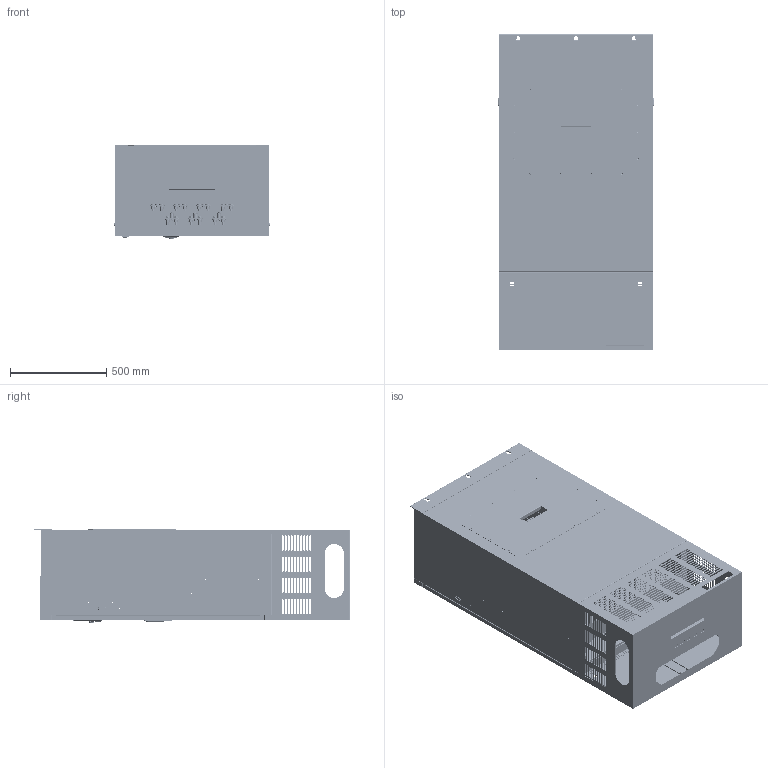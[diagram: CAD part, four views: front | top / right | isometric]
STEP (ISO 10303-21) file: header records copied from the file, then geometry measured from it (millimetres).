
FILE_DESCRIPTION((''),'2;1');
FILE_NAME('00-KC500X-350-450KW230721_ASM_1_ASM','2024-08-16T',('Administrator'),(''),'PRO/ENGINEER BY PARAMETRIC TECHNOLOGY CORPORATION, 2010280','PRO/ENGINEER BY PARAMETRIC TECHNOLOGY CORPORATION, 2010280','');
FILE_SCHEMA(('AUTOMOTIVE_DESIGN { 1 0 10303 214 1 1 1 1 }'));
Products named in the file (147): KC500X-450-01-01-01_6; NZ-M8__1; S-M5-ZC_1; KC500X-450-01-01-01_ASM_3_ASM; KC500X-450-01-01-02_1; KC500X-450-01-01-02_ASM_4_ASM; KC500X-450-01-01-03_3; KC500X-450-01-01-03_ASM_5_ASM; KC500X-450-01-01-04_1; NZ-M6-ZC__2; KC500X-450-01-01-04_ASM_3_ASM; KC500X-450-01-01-05_1; NZ-M4__1; NZ-M4_2; BSO-M5-30-ZC_1; BSO-M3-8_1; KC500X-450-01-01-05_ASM_4_ASM; KC500X-450-01-01-09_1; NZ-M6_3; KC500X-450-01-01-09_ASM_4_ASM; KC500X-450-01-01-10_1; KC500X-450-01-01-10_ASM_3_ASM; KC500X-450-01-01-11_1; KC500X-450-01-01-11_ASM_3_ASM; KC500X-450-01-01-12_1; KC500X-450-01-01-12_ASM_4_ASM; KC500X-450-01-01-13_1; S-M5_1; KC500X-450-01-01-13_ASM_3_ASM; KC500X-450-01-01-14_3; KC500X-450-01-01-15_3; KC500X-450-01-01_ASM_9_ASM; KC500X-450-01-02-02_2; KC500X-450-01-02_ASM_4_ASM; KC500X-450-01-03_1; S-M4-ZC_1; KC500X-450-01-03_ASM_3_ASM; KC500X-450-01-05_1; S-M6-ZC_72__1; KC500X-450-01-05_ASM_4_ASM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
Assembly tree (353 placements, depth 7):
  00-KC500X-350-450KW230721_ASM_1_ASM
    KC500X-450-01_ASM_8_ASM
      KC500X-450-01-01_ASM_9_ASM
        KC500X-450-01-01-01_ASM_3_ASM
          KC500X-450-01-01-01_6
          NZ-M8__1  x5
          S-M5-ZC_1  x14
        KC500X-450-01-01-02_ASM_4_ASM
          KC500X-450-01-01-02_1
          NZ-M8__1  x3
        KC500X-450-01-01-03_ASM_5_ASM
          KC500X-450-01-01-03_3
          NZ-M8__1  x3
        KC500X-450-01-01-04_ASM_3_ASM
          KC500X-450-01-01-04_1
          NZ-M8__1  x5
          NZ-M6-ZC__2  x3
        KC500X-450-01-01-05_ASM_4_ASM
          KC500X-450-01-01-05_1
          NZ-M4__1  x2
          NZ-M4_2  x6
          BSO-M5-30-ZC_1  x2
          BSO-M3-8_1  x2
        KC500X-450-01-01-09_ASM_4_ASM  x2
          KC500X-450-01-01-09_1
          NZ-M6_3
        KC500X-450-01-01-10_ASM_3_ASM  x2
          KC500X-450-01-01-10_1
          NZ-M6_3
        KC500X-450-01-01-11_ASM_3_ASM  x2
          KC500X-450-01-01-11_1
          NZ-M6_3
        KC500X-450-01-01-12_ASM_4_ASM  x2
          KC500X-450-01-01-12_1
          NZ-M6_3
        KC500X-450-01-01-13_ASM_3_ASM
          KC500X-450-01-01-13_1
          S-M5_1  x10
        KC500X-450-01-01-14_3
        KC500X-450-01-01-15_3
      KC500X-450-01-02_ASM_4_ASM
        KC500X-450-01-02-02_2
      KC500X-450-01-03_ASM_3_ASM
        KC500X-450-01-03_1
        S-M4-ZC_1  x10
      KC500X-450-01-05_ASM_4_ASM  x3
        KC500X-450-01-05_1
        S-M6-ZC_72__1
      KC500X-450-01-06_ASM_3_ASM
        KC500X-450-01-06_2
        BSO-M3-10_1  x12
      KC500X-450-01-07_3
      KC500X-450-01-09_ASM_3_ASM
        KC500X-450-01-09_1
        FH-M6-12_1  x6
      KC500X-450-01-10_ASM_4_ASM
        KC500X-450-01-10_5
        FH-M6-12-ZC_56_1  x12
        NZ-M4_2  x2
        NZ-M8__1  x2
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Bounding box: 807 x 1635.97 x 486.3 mm (x, y, z)
Volume: 15709346.3 mm3; surface area: 15769156.4 mm2
Topology: 412 solids, 412 shells, 40640 faces, 113973 edges, 76901 vertices
Faces by surface type: plane 32955, cylinder 4577, cone 2624, torus 260, bspline 176, sphere 46, extrusion 2
Entity records: 435339 total; most frequent: CARTESIAN_POINT 76390, ORIENTED_EDGE 58154, DIRECTION 58123, EDGE_CURVE 29077, VECTOR 22693, LINE 22691, VERTEX_POINT 19116, PRESENTATION_STYLE_ASSIGNMENT 18291
